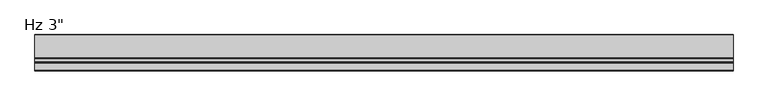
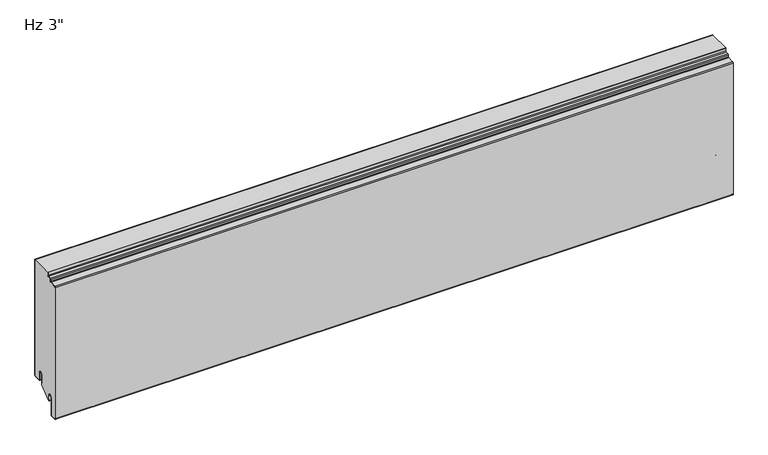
"""IFC4 building model written with IfcOpenShell, lengths in millimetres: plate geometry."""

from ifc_helpers import new_model, si_unit, point, frame, frame_2d, origin, place, context, project, spatial, polyline, circle_curve, trimmed, segment, composite_curve, outline, extrude, source, transform, mapped, element, save


def plate_6caacb33(model_context):
    return source(origin(), model_context, "Body", "SweptSolid", [
        extrude(outline(composite_curve([segment(trimmed(circle_curve(frame_2d((-21.43125, 19.05)), 4.96875), [point((-16.4625, 19.05))], [point((-26.4, 19.05))], True, "CARTESIAN"), True, "CONTINUOUS"), segment(polyline([(-26.4, 19.05), (-26.4, -3.1323422), (-49.2157227, -23.01875), (-50.8, -23.01875), (-50.8, -13.5080174), (-51.59375, -13.5080174), (-51.3875, -11.9205174)]), True, "CONTINUOUS"), segment(trimmed(circle_curve(frame_2d((-56.35625, -11.9205174)), 4.96875), [point((-51.3875, -11.9205174))], [point((-61.325, -11.9205174))], True, "CARTESIAN"), True, "CONTINUOUS"), segment(polyline([(-61.325, -11.9205174), (-61.325, -50.1038221)]), True, "CONTINUOUS"), segment(trimmed(circle_curve(frame_2d((-62.70625, -50.1038221)), 1.38125), [point((-61.325, -50.1038221))], [point((-62.633961, -51.4831791))], False, "CARTESIAN"), True, "CONTINUOUS"), segment(polyline([(-62.633961, -51.4831791), (-73.746461, -52.0655606)]), True, "CONTINUOUS"), segment(trimmed(circle_curve(frame_2d((-73.81875, -50.6862035)), 1.38125), [point((-73.746461, -52.0655606))], [point((-75.2, -50.6862035))], False, "CARTESIAN"), True, "CONTINUOUS"), segment(polyline([(-75.2, -50.6862035), (-75.2, 247.7572607)]), True, "CONTINUOUS"), segment(trimmed(circle_curve(frame_2d((-73.81875, 247.7572607)), 1.38125), [point((-75.2, 247.7572607))], [point((-73.891039, 249.1366177))], False, "CARTESIAN"), True, "CONTINUOUS"), segment(polyline([(-73.891039, 249.1366177), (-60.1895807, 249.8546807)]), True, "CONTINUOUS"), segment(trimmed(circle_curve(frame_2d((-60.325, 252.4386347)), 2.5875), [point((-60.1895807, 249.8546807))], [point((-57.7375, 252.4386347))], True, "CARTESIAN"), True, "CONTINUOUS"), segment(polyline([(-57.7375, 252.4386347), (-57.7375, 255.4824411)]), True, "CONTINUOUS"), segment(trimmed(circle_curve(frame_2d((-56.35625, 255.4824411)), 1.38125), [point((-57.7375, 255.4824411))], [point((-56.428539, 256.8617981))], False, "CARTESIAN"), True, "CONTINUOUS"), segment(polyline([(-56.428539, 256.8617981), (-50.6645807, 257.1638744)]), True, "CONTINUOUS"), segment(trimmed(circle_curve(frame_2d((-50.8, 259.7478283)), 2.5875), [point((-50.6645807, 257.1638744))], [point((-48.2125, 259.7478283))], True, "CARTESIAN"), True, "CONTINUOUS"), segment(polyline([(-48.2125, 259.7478283), (-48.2125, 266.4), (-1.0, 266.4), (-1.0, 3.175)]), True, "CONTINUOUS"), segment(trimmed(circle_curve(frame_2d((-2.38125, 3.175)), 1.38125), [point((-1.0, 3.175))], [point((-2.38125, 1.79375))], False, "CARTESIAN"), True, "CONTINUOUS"), segment(polyline([(-2.38125, 1.79375), (-15.08125, 1.79375)]), True, "CONTINUOUS"), segment(trimmed(circle_curve(frame_2d((-15.08125, 3.175)), 1.38125), [point((-15.08125, 1.79375))], [point((-16.4625, 3.175))], False, "CARTESIAN"), True, "CONTINUOUS"), segment(polyline([(-16.4625, 3.175), (-16.4625, 19.05)]), True, "CONTINUOUS")], self_intersect=False)), frame((-730.0, 0.0, 0.0), z_axis=(1.0, 0.0, 0.0), x_axis=(0.0, 1.0, 0.0)), (0.0, 0.0, 1.0), 1460.0),
        extrude(outline(composite_curve([segment(polyline([(-25.4, 0.79375), (-26.4, 0.79375), (-26.4, 19.05)]), True, "CONTINUOUS"), segment(trimmed(circle_curve(frame_2d((-21.43125, 19.05)), 4.96875), [point((-26.4, 19.05))], [point((-16.4625, 19.05))], False, "CARTESIAN"), True, "CONTINUOUS"), segment(polyline([(-16.4625, 19.05), (-16.4625, 3.175)]), True, "CONTINUOUS"), segment(trimmed(circle_curve(frame_2d((-15.08125, 3.175)), 1.38125), [point((-16.4625, 3.175))], [point((-15.08125, 1.79375))], True, "CARTESIAN"), True, "CONTINUOUS"), segment(polyline([(-15.08125, 1.79375), (-2.38125, 1.79375)]), True, "CONTINUOUS"), segment(trimmed(circle_curve(frame_2d((-2.38125, 3.175)), 1.38125), [point((-2.38125, 1.79375))], [point((-1.0, 3.175))], True, "CARTESIAN"), True, "CONTINUOUS"), segment(polyline([(-1.0, 3.175), (-1.0, 266.4), (0.0, 266.4), (0.0, 3.175)]), True, "CONTINUOUS"), segment(trimmed(circle_curve(frame_2d((-2.38125, 3.175)), 2.38125), [point((0.0, 3.175))], [point((-2.38125, 0.79375))], False, "CARTESIAN"), True, "CONTINUOUS"), segment(polyline([(-2.38125, 0.79375), (-15.08125, 0.79375)]), True, "CONTINUOUS"), segment(trimmed(circle_curve(frame_2d((-15.08125, 3.175)), 2.38125), [point((-15.08125, 0.79375))], [point((-17.4625, 3.175))], False, "CARTESIAN"), True, "CONTINUOUS"), segment(polyline([(-17.4625, 3.175), (-17.4625, 19.05)]), True, "CONTINUOUS"), segment(trimmed(circle_curve(frame_2d((-21.43125, 19.05)), 3.96875), [point((-17.4625, 19.05))], [point((-25.4, 19.05))], True, "CARTESIAN"), True, "CONTINUOUS"), segment(polyline([(-25.4, 19.05), (-25.4, 0.79375)]), True, "CONTINUOUS")], self_intersect=False)), frame((-730.0, 0.0, 0.0), z_axis=(1.0, 0.0, 0.0), x_axis=(0.0, 1.0, 0.0)), (0.0, 0.0, 1.0), 1460.0),
        extrude(outline(composite_curve([segment(trimmed(circle_curve(frame_2d((-51.59375, -23.2314549)), 0.79375), [point((-50.8, -23.2314549))], [point((-52.3875, -23.2314549))], False, "CARTESIAN"), True, "CONTINUOUS"), segment(polyline([(-52.3875, -23.2314549), (-52.3875, -11.9205174)]), True, "CONTINUOUS"), segment(trimmed(circle_curve(frame_2d((-56.35625, -11.9205174)), 3.96875), [point((-52.3875, -11.9205174))], [point((-60.325, -11.9205174))], True, "CARTESIAN"), True, "CONTINUOUS"), segment(polyline([(-60.325, -11.9205174), (-60.325, -50.1038221)]), True, "CONTINUOUS"), segment(trimmed(circle_curve(frame_2d((-62.70625, -50.1038221)), 2.38125), [point((-60.325, -50.1038221))], [point((-62.581625, -52.4818086))], False, "CARTESIAN"), True, "CONTINUOUS"), segment(polyline([(-62.581625, -52.4818086), (-73.694125, -53.0641901)]), True, "CONTINUOUS"), segment(trimmed(circle_curve(frame_2d((-73.81875, -50.6862035)), 2.38125), [point((-73.694125, -53.0641901))], [point((-76.2, -50.6862035))], False, "CARTESIAN"), True, "CONTINUOUS"), segment(polyline([(-76.2, -50.6862035), (-76.2, 247.7572607)]), True, "CONTINUOUS"), segment(trimmed(circle_curve(frame_2d((-73.81875, 247.7572607)), 2.38125), [point((-76.2, 247.7572607))], [point((-73.943375, 250.1352473))], False, "CARTESIAN"), True, "CONTINUOUS"), segment(polyline([(-73.943375, 250.1352473), (-60.2419167, 250.8533103)]), True, "CONTINUOUS"), segment(trimmed(circle_curve(frame_2d((-60.325, 252.4386347)), 1.5875), [point((-60.2419167, 250.8533103))], [point((-58.7375, 252.4386347))], True, "CARTESIAN"), True, "CONTINUOUS"), segment(polyline([(-58.7375, 252.4386347), (-58.7375, 255.4824411)]), True, "CONTINUOUS"), segment(trimmed(circle_curve(frame_2d((-56.35625, 255.4824411)), 2.38125), [point((-58.7375, 255.4824411))], [point((-56.480875, 257.8604276))], False, "CARTESIAN"), True, "CONTINUOUS"), segment(polyline([(-56.480875, 257.8604276), (-50.7169167, 258.1625039)]), True, "CONTINUOUS"), segment(trimmed(circle_curve(frame_2d((-50.8, 259.7478283)), 1.5875), [point((-50.7169167, 258.1625039))], [point((-49.2125, 259.7478283))], True, "CARTESIAN"), True, "CONTINUOUS"), segment(polyline([(-49.2125, 259.7478283), (-49.2125, 266.4), (-48.2125, 266.4), (-48.2125, 259.7478283)]), True, "CONTINUOUS"), segment(trimmed(circle_curve(frame_2d((-50.8, 259.7478283)), 2.5875), [point((-48.2125, 259.7478283))], [point((-50.6645807, 257.1638744))], False, "CARTESIAN"), True, "CONTINUOUS"), segment(polyline([(-50.6645807, 257.1638744), (-56.428539, 256.8617981)]), True, "CONTINUOUS"), segment(trimmed(circle_curve(frame_2d((-56.35625, 255.4824411)), 1.38125), [point((-56.428539, 256.8617981))], [point((-57.7375, 255.4824411))], True, "CARTESIAN"), True, "CONTINUOUS"), segment(polyline([(-57.7375, 255.4824411), (-57.7375, 252.4386347)]), True, "CONTINUOUS"), segment(trimmed(circle_curve(frame_2d((-60.325, 252.4386347)), 2.5875), [point((-57.7375, 252.4386347))], [point((-60.1895807, 249.8546807))], False, "CARTESIAN"), True, "CONTINUOUS"), segment(polyline([(-60.1895807, 249.8546807), (-73.891039, 249.1366177)]), True, "CONTINUOUS"), segment(trimmed(circle_curve(frame_2d((-73.81875, 247.7572607)), 1.38125), [point((-73.891039, 249.1366177))], [point((-75.2, 247.7572607))], True, "CARTESIAN"), True, "CONTINUOUS"), segment(polyline([(-75.2, 247.7572607), (-75.2, -50.6862035)]), True, "CONTINUOUS"), segment(trimmed(circle_curve(frame_2d((-73.81875, -50.6862035)), 1.38125), [point((-75.2, -50.6862035))], [point((-73.746461, -52.0655606))], True, "CARTESIAN"), True, "CONTINUOUS"), segment(polyline([(-73.746461, -52.0655606), (-62.633961, -51.4831791)]), True, "CONTINUOUS"), segment(trimmed(circle_curve(frame_2d((-62.70625, -50.1038221)), 1.38125), [point((-62.633961, -51.4831791))], [point((-61.325, -50.1038221))], True, "CARTESIAN"), True, "CONTINUOUS"), segment(polyline([(-61.325, -50.1038221), (-61.325, -11.9205174)]), True, "CONTINUOUS"), segment(trimmed(circle_curve(frame_2d((-56.35625, -11.9205174)), 4.96875), [point((-61.325, -11.9205174))], [point((-51.3875, -11.9205174))], False, "CARTESIAN"), True, "CONTINUOUS"), segment(polyline([(-51.3875, -11.9205174), (-51.59375, -13.5080174), (-50.8, -13.5080174), (-50.8, -23.2314549)]), True, "CONTINUOUS")], self_intersect=False)), frame((-730.0, 0.0, 0.0), z_axis=(1.0, 0.0, 0.0), x_axis=(0.0, 1.0, 0.0)), (0.0, 0.0, 1.0), 1460.0),
    ])


if __name__ == "__main__":
    model = new_model("IFC4")
    model_context = context("Model", 3, world=origin())
    ifc_project = project(units=[si_unit("LENGTHUNIT", "METRE", prefix="MILLI")], contexts=[model_context])
    site = spatial("IfcSite", under=ifc_project)
    building = spatial("IfcBuilding", under=site)
    placement = place(None, origin())
    plate_shape = plate_6caacb33(model_context)
    element("IfcPlate", 1, ObjectType="KIP-12-DWTR-R19-CP-Hz-F : Hz 3\"", at=placement, inside=building, context=model_context, shape_type="MappedRepresentation", body=[
        mapped(plate_shape, transform((0.0, 0.0, 0.0), x_axis=(1.0, 0.0, 0.0), y_axis=(0.0, 1.0, 0.0), z_axis=(0.0, 0.0, 1.0))),
    ])
    save(model, "model.ifc")
